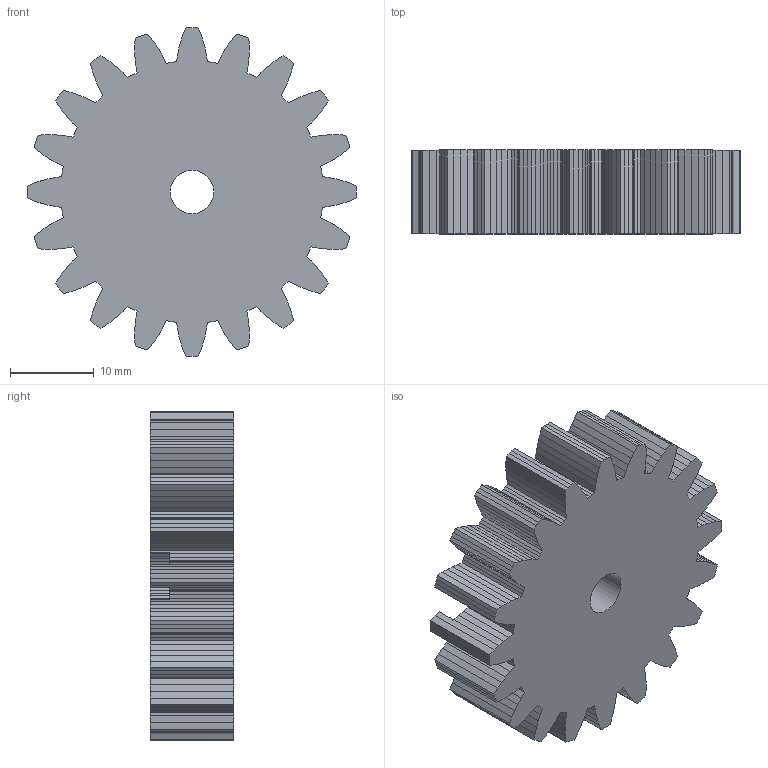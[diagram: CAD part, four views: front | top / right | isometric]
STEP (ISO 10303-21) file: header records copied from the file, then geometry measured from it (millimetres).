
FILE_DESCRIPTION(/* description */ ('STEP AP242 Edition 2','CAx-IF Rec.Pracs.---Representation and Presentation of Product Manufacturing Information (PMI)---4.0---2014-10-13','CAx-IF Rec.Pracs.---3D Tessellated Geometry---0.4---2014-09-14','2;1','CAx-IF Rec.Pracs.---User Defined Attributes---1.5---2016-08-15'),/* implementation_level */ '2;1');
FILE_NAME(/* name */ 'Tracker Assembly - Vertical Gear',/* time_stamp */ '2026-10-25T15:06:36Z',/* author */ (''),/* organization */ (''),/* preprocessor_version */ 'ST-DEVELOPER v20',/* originating_system */ 'ONSHAPE BY PTC INC, 1.222',/* authorisation */ ' ');
FILE_SCHEMA (('AP242_MANAGED_MODEL_BASED_3D_ENGINEERING_MIM_LF { 1 0 10303 442 3 1 4 }'));
Length unit declared in the file: metre
Products named in the file (1): Vertical Gear
Bounding box: 39.18 x 10 x 39.18 mm (x, y, z)
Volume: 9430.2 mm3; surface area: 4382.5 mm2
Topology: 1 solids, 1 shells, 378 faces, 1128 edges, 752 vertices
Faces by surface type: plane 377, cylinder 1
Full cylindrical faces by diameter (mm): 5.2 x1
Entity records: 12455 total; most frequent: CARTESIAN_POINT 2258, ORIENTED_EDGE 2254, DIRECTION 1887, EDGE_CURVE 1127, LINE 1125, VECTOR 1125, VERTEX_POINT 752, EDGE_LOOP 381
